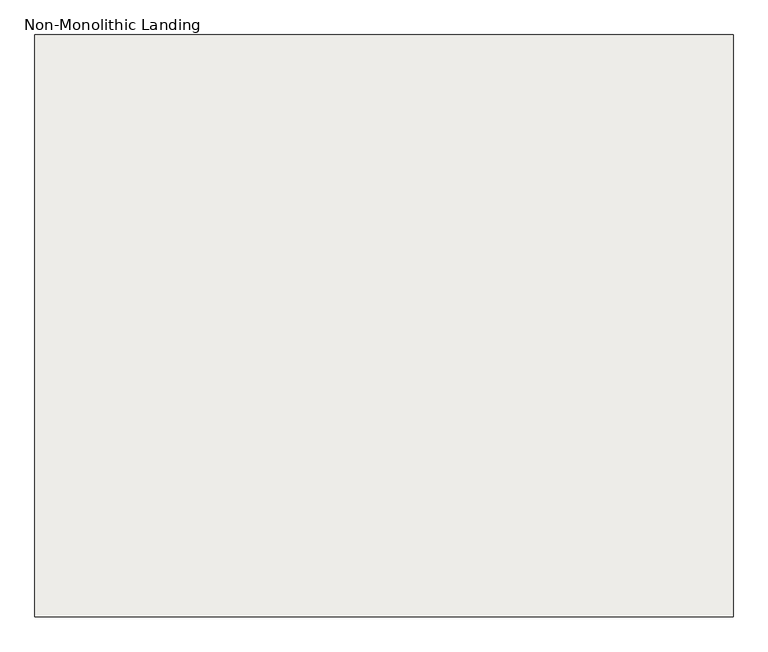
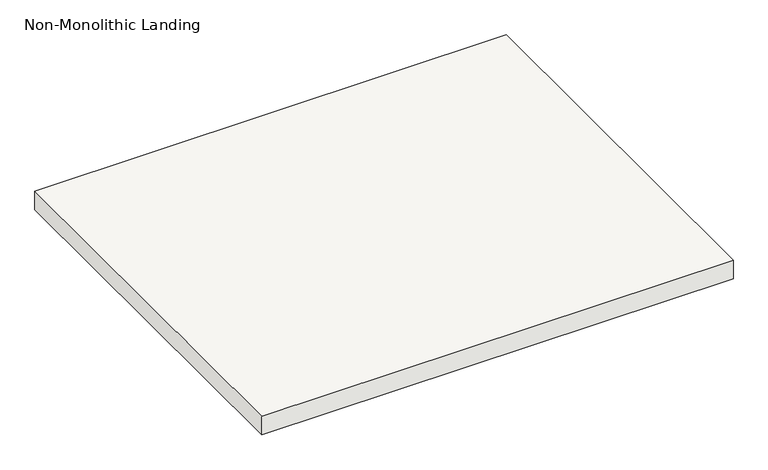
"""IFC4 building model written with IfcOpenShell, lengths in millimetres: slab geometry, Non-Monolithic Landing."""

import ifcopenshell
import ifcopenshell.guid

model = None  # the IFC model being written
_history = None  # IfcOwnerHistory: only IFC2X3 demands one
_inside = {}  # id of a spatial element -> (the spatial element, [elements in it])
_under = {}  # id of a project, library or spatial element -> (it, [spatial elements below it])
_declared = {}  # id of a project -> (the project, [libraries it declares])
_typed = {}  # id of a type object -> (the type object, [elements of that type])
_made_of = {}  # id of a material, layer set ... -> (it, [elements and type objects made of it])


def new_model(schema):
    """Start an empty IFC model of exactly this schema.

    Asked for "IFC4X3", IfcOpenShell would pick the latest addendum, in which some entities
    have other attributes; the version numbers below select the first issue.
    IFC2X3 requires an IfcOwnerHistory on every rooted entity: one is made here for all.
    """
    global model, _history
    if schema == "IFC4X3":
        model = ifcopenshell.file(schema_version=(4, 3, 0, 0))
    else:
        model = ifcopenshell.file(schema=schema)
    _inside.clear()
    _under.clear()
    _declared.clear()
    _typed.clear()
    _made_of.clear()
    _history = None
    if model.schema == "IFC2X3":
        org = make("IfcOrganization", Name="unknown")
        user = make(
            "IfcPersonAndOrganization",
            ThePerson=make("IfcPerson", FamilyName="unknown"),
            TheOrganization=org,
        )
        app = make(
            "IfcApplication",
            ApplicationDeveloper=org,
            Version="unknown",
            ApplicationFullName="unknown",
            ApplicationIdentifier="unknown",
        )
        _history = make(
            "IfcOwnerHistory",
            OwningUser=user,
            OwningApplication=app,
            ChangeAction="ADDED",
            CreationDate=0,
        )
    return model


def make(cls, **values):
    """One entity of the class cls with the attributes given. An attribute that is None is left unset."""
    return model.create_entity(
        cls, **{name: value for name, value in values.items() if value is not None}
    )


def rooted(cls, **values):
    """An entity with a GlobalId (a new one), such as an element, a storey or a relation."""
    return make(cls, GlobalId=ifcopenshell.guid.new(), OwnerHistory=_history, **values)


def si_unit(unit_type, name, prefix=None):
    """IfcSIUnit, for example si_unit("LENGTHUNIT", "METRE", prefix="MILLI")."""
    return make("IfcSIUnit", UnitType=unit_type, Prefix=prefix, Name=name)


def assignment(units):
    """IfcUnitAssignment: the units of a project."""
    return None if units is None else make("IfcUnitAssignment", Units=units)


def point(xyz):
    """IfcCartesianPoint."""
    return None if xyz is None else make("IfcCartesianPoint", Coordinates=xyz)


def direction(xyz):
    """IfcDirection."""
    return None if xyz is None else make("IfcDirection", DirectionRatios=xyz)


def frame(location, z_axis=None, x_axis=None):
    """IfcAxis2Placement3D, a coordinate frame: its origin and axes. An axis left out is left unset."""
    return make(
        "IfcAxis2Placement3D",
        Location=point(location),
        Axis=direction(z_axis),
        RefDirection=direction(x_axis),
    )


def origin():
    """The frame at (0, 0, 0) with its axes left unset."""
    return frame((0.0, 0.0, 0.0))


def place(relative_to, where):
    """IfcLocalPlacement: puts the frame where relative to a parent placement (None: the world)."""
    return make(
        "IfcLocalPlacement", PlacementRelTo=relative_to, RelativePlacement=where
    )


def context(
    kind, dimensions, precision=None, world=None, true_north=None, identifier=None
):
    """IfcGeometricRepresentationContext, for example the 3D "Model" context."""
    return make(
        "IfcGeometricRepresentationContext",
        ContextIdentifier=identifier,
        ContextType=kind,
        CoordinateSpaceDimension=dimensions,
        Precision=precision,
        WorldCoordinateSystem=world,
        TrueNorth=true_north,
    )


def project(units=None, contexts=None):
    """IfcProject with its units and contexts."""
    return rooted(
        "IfcProject",
        Name="project",
        RepresentationContexts=contexts,
        UnitsInContext=assignment(units),
    )


def spatial(cls, under=None, at=None, **own):
    """A site, building, storey or space (cls), placed at a placement, below another one or the project."""
    s = rooted(cls, ObjectPlacement=at, **own)
    if under is not None:
        _under.setdefault(under.id(), (under, []))[1].append(s)
    return s


def polyline(points):
    """IfcPolyline through the points."""
    return make("IfcPolyline", Points=[point(p) for p in points])


def outline(outer, holes=None, kind="AREA"):
    """IfcArbitraryClosedProfileDef: a profile drawn as a closed curve; with holes, ...WithVoids."""
    if holes is None:
        return make("IfcArbitraryClosedProfileDef", ProfileType=kind, OuterCurve=outer)
    return make(
        "IfcArbitraryProfileDefWithVoids",
        ProfileType=kind,
        OuterCurve=outer,
        InnerCurves=holes,
    )


def extrude(swept, where, along, depth):
    """IfcExtrudedAreaSolid: the profile swept, set in the frame where, extruded along a direction by depth."""
    return make(
        "IfcExtrudedAreaSolid",
        SweptArea=swept,
        Position=where,
        ExtrudedDirection=direction(along),
        Depth=depth,
    )


def shape(context_of_items, identifier, shape_type, items):
    """IfcShapeRepresentation: the items that make up one representation, for example the "Body"."""
    return make(
        "IfcShapeRepresentation",
        ContextOfItems=context_of_items,
        RepresentationIdentifier=identifier,
        RepresentationType=shape_type,
        Items=items,
    )


def source(mapping_origin, context_of_items, identifier, shape_type, items):
    """IfcRepresentationMap: a shape defined once, which mapped items show again and again."""
    return make(
        "IfcRepresentationMap",
        MappingOrigin=mapping_origin,
        MappedRepresentation=shape(context_of_items, identifier, shape_type, items),
    )


def transform(
    local_origin,
    x_axis=None,
    y_axis=None,
    z_axis=None,
    scale=None,
    scale2=None,
    scale3=None,
    uniform=True,
):
    """IfcCartesianTransformationOperator3D, or its non-uniform kind. x_axis, y_axis, z_axis: its Axis1, 2, 3."""
    if uniform:
        return make(
            "IfcCartesianTransformationOperator3D",
            Axis1=direction(x_axis),
            Axis2=direction(y_axis),
            LocalOrigin=point(local_origin),
            Scale=scale,
            Axis3=direction(z_axis),
        )
    return make(
        "IfcCartesianTransformationOperator3DnonUniform",
        Axis1=direction(x_axis),
        Axis2=direction(y_axis),
        LocalOrigin=point(local_origin),
        Scale=scale,
        Axis3=direction(z_axis),
        Scale2=scale2,
        Scale3=scale3,
    )


def mapped(mapping_source, mapping_target):
    """IfcMappedItem: shows the shape of a source again, moved by a transform."""
    return make(
        "IfcMappedItem", MappingSource=mapping_source, MappingTarget=mapping_target
    )


def made_of(thing, what):
    """Note that an element or type object is made of a material, layer set ...; save() writes the relation."""
    if what is not None:
        _made_of.setdefault(what.id(), (what, []))[1].append(thing)
    return thing


def element(
    cls,
    number,
    at=None,
    inside=None,
    cuts=None,
    type_object=None,
    material=None,
    context=None,
    identifier="Body",
    shape_type=None,
    held_by="IfcProductDefinitionShape",
    body=None,
    shapes=None,
    **own,
):
    """One element of the class cls, such as IfcWall. Its Tag is "e" and its number.

    at: its placement. inside: the storey or other place that contains it. cuts: it is an
    opening in that element (IfcRelVoidsElement). A single representation is given by context,
    identifier, shape_type and body (its items); several are given by shapes. held_by: the class
    of the entity that holds the representations. save() writes the other relations.
    """
    e = rooted(cls, Tag="e%d" % number, ObjectPlacement=at, **own)
    if body is not None:
        shapes = [shape(context, identifier, shape_type, body)]
    if shapes is not None:
        e.Representation = make(held_by, Representations=shapes)
    if inside is not None:
        _inside.setdefault(inside.id(), (inside, []))[1].append(e)
    if cuts is not None:
        rooted(
            "IfcRelVoidsElement", RelatingBuildingElement=cuts, RelatedOpeningElement=e
        )
    if type_object is not None:
        _typed.setdefault(type_object.id(), (type_object, []))[1].append(e)
    return made_of(e, material)


def aggregate(whole, parts):
    """IfcRelAggregates: a whole, such as a stair, and the parts it consists of."""
    return rooted("IfcRelAggregates", RelatingObject=whole, RelatedObjects=parts)


def save(model, path):
    """Write the relations noted so far, then the file.

    IfcRelAggregates (storeys below a building ...), IfcRelContainedInSpatialStructure (elements
    in a storey), IfcRelDefinesByType, IfcRelAssociatesMaterial and IfcRelDeclares: one each for
    every whole, place, type object, material and project.
    """
    for whole, parts in _under.values():
        aggregate(whole, parts)
    for where, things in _inside.values():
        rooted(
            "IfcRelContainedInSpatialStructure",
            RelatedElements=things,
            RelatingStructure=where,
        )
    for kind, things in _typed.values():
        rooted("IfcRelDefinesByType", RelatedObjects=things, RelatingType=kind)
    for what, things in _made_of.values():
        rooted("IfcRelAssociatesMaterial", RelatedObjects=things, RelatingMaterial=what)
    for by, libraries in _declared.values():
        rooted("IfcRelDeclares", RelatingContext=by, RelatedDefinitions=libraries)
    model.write(path)


def non_monolithic_landing_e98cef7c(model_context):
    return source(origin(), model_context, "Body", "SweptSolid", [
        extrude(outline(polyline([(-110688.9400112, 12172.4703498), (-111888.9400112, 12172.4703498), (-111888.9400112, 13172.4703498), (-110688.9400112, 13172.4703498), (-110688.9400112, 12172.4703498)])), frame((0.0, 0.0, 47120.0), z_axis=(0.0, 0.0, 1.0), x_axis=(1.0, 0.0, 0.0)), (0.0, 0.0, 1.0), 50.0),
    ])


if __name__ == "__main__":
    model = new_model("IFC4")
    model_context = context("Model", 3, world=origin())
    ifc_project = project(units=[si_unit("LENGTHUNIT", "METRE", prefix="MILLI")], contexts=[model_context])
    site = spatial("IfcSite", under=ifc_project)
    building = spatial("IfcBuilding", under=site)
    placement = place(None, origin())
    non_monolithic_landing_shape = non_monolithic_landing_e98cef7c(model_context)
    element("IfcSlab", 1, ObjectType="Non-Monolithic Landing", at=placement, inside=building, context=model_context, shape_type="MappedRepresentation", body=[
        mapped(non_monolithic_landing_shape, transform((0.0, 0.0, 0.0), x_axis=(1.0, 0.0, 0.0), y_axis=(0.0, 1.0, 0.0), z_axis=(0.0, 0.0, 1.0))),
    ])
    save(model, "model.ifc")
